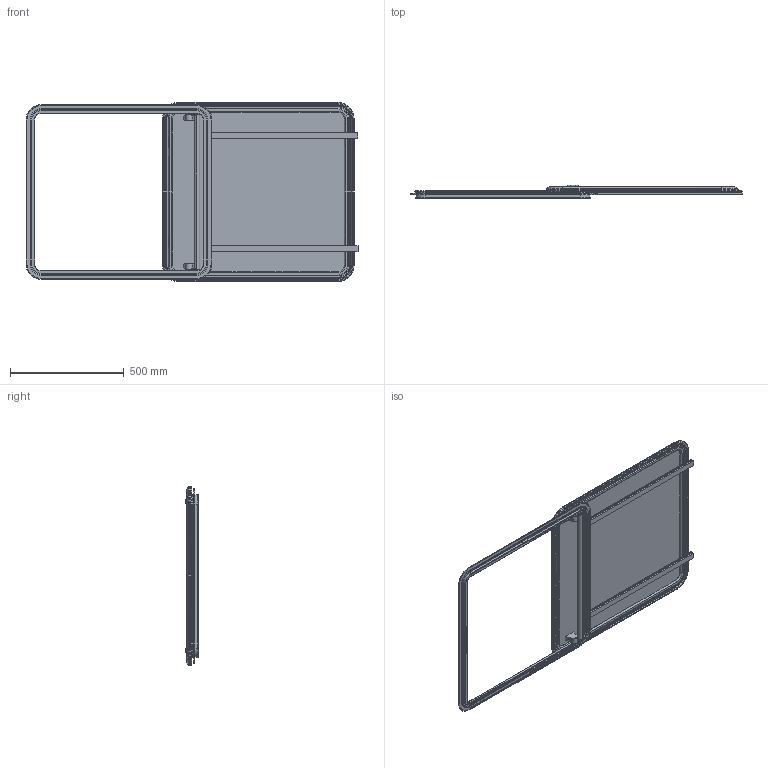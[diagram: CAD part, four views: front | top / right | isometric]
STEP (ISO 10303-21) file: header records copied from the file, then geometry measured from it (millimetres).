
FILE_DESCRIPTION((''),'2;1');
FILE_NAME('LEWMAR-HATCH-PILOT-78_ASM','2008-02-06T',('skennedy'),(''),'PRO/ENGINEER BY PARAMETRIC TECHNOLOGY CORPORATION, 2007030','PRO/ENGINEER BY PARAMETRIC TECHNOLOGY CORPORATION, 2007030','');
FILE_SCHEMA(('CONFIG_CONTROL_DESIGN'));
Length unit declared in the file: millimetre
Products named in the file (5): FRAME_78; 30069803; PILOT_HANDLE_78; PILOT_78_LOWER; LEWMAR-HATCH-PILOT-78_ASM
Assembly tree (4 placements, depth 2):
  LEWMAR-HATCH-PILOT-78_ASM
    FRAME_78
    30069803
    PILOT_HANDLE_78
    PILOT_78_LOWER
Bounding box: 1462.04 x 57.8 x 790 mm (x, y, z)
Volume: 7672549.8 mm3; surface area: 2570233.1 mm2
Topology: 3 solids, 6 shells, 1093 faces, 2662 edges, 1614 vertices
Faces by surface type: plane 457, cylinder 312, bspline 192, torus 84, cone 40, sphere 8
Entity records: 37468 total; most frequent: CARTESIAN_POINT 12227, ORIENTED_EDGE 5324, DIRECTION 5052, EDGE_CURVE 2662, AXIS2_PLACEMENT_3D 1724, VERTEX_POINT 1614, VECTOR 1604, LINE 1604
